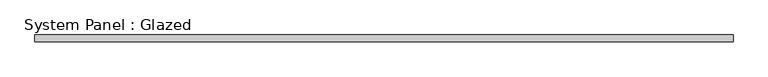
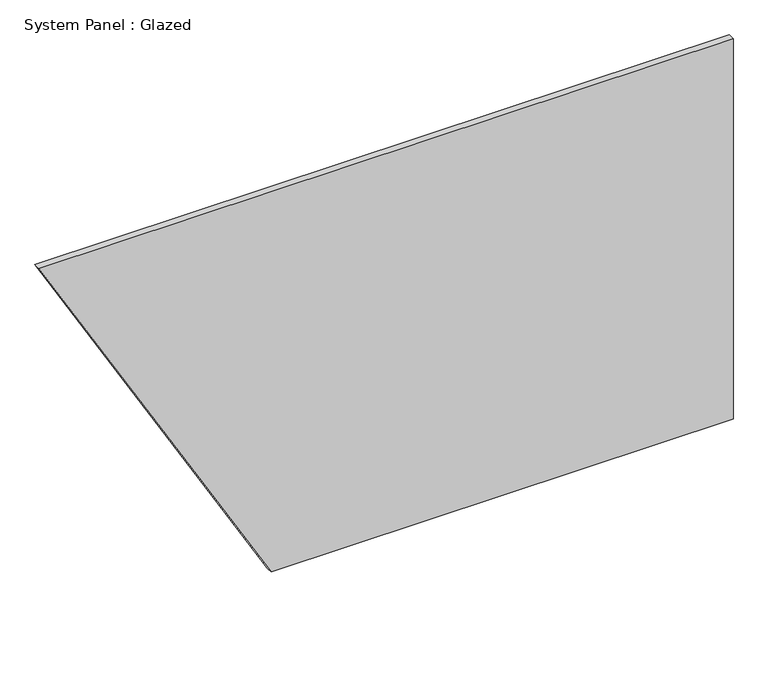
"""IFC4 building model written with IfcOpenShell, lengths in millimetres: plate geometry, System Panel : Glazed."""

import ifcopenshell
import ifcopenshell.guid

model = None  # the IFC model being written
_history = None  # IfcOwnerHistory: only IFC2X3 demands one
_inside = {}  # id of a spatial element -> (the spatial element, [elements in it])
_under = {}  # id of a project, library or spatial element -> (it, [spatial elements below it])
_declared = {}  # id of a project -> (the project, [libraries it declares])
_typed = {}  # id of a type object -> (the type object, [elements of that type])
_made_of = {}  # id of a material, layer set ... -> (it, [elements and type objects made of it])


def new_model(schema):
    """Start an empty IFC model of exactly this schema.

    Asked for "IFC4X3", IfcOpenShell would pick the latest addendum, in which some entities
    have other attributes; the version numbers below select the first issue.
    IFC2X3 requires an IfcOwnerHistory on every rooted entity: one is made here for all.
    """
    global model, _history
    if schema == "IFC4X3":
        model = ifcopenshell.file(schema_version=(4, 3, 0, 0))
    else:
        model = ifcopenshell.file(schema=schema)
    _inside.clear()
    _under.clear()
    _declared.clear()
    _typed.clear()
    _made_of.clear()
    _history = None
    if model.schema == "IFC2X3":
        org = make("IfcOrganization", Name="unknown")
        user = make(
            "IfcPersonAndOrganization",
            ThePerson=make("IfcPerson", FamilyName="unknown"),
            TheOrganization=org,
        )
        app = make(
            "IfcApplication",
            ApplicationDeveloper=org,
            Version="unknown",
            ApplicationFullName="unknown",
            ApplicationIdentifier="unknown",
        )
        _history = make(
            "IfcOwnerHistory",
            OwningUser=user,
            OwningApplication=app,
            ChangeAction="ADDED",
            CreationDate=0,
        )
    return model


def make(cls, **values):
    """One entity of the class cls with the attributes given. An attribute that is None is left unset."""
    return model.create_entity(
        cls, **{name: value for name, value in values.items() if value is not None}
    )


def rooted(cls, **values):
    """An entity with a GlobalId (a new one), such as an element, a storey or a relation."""
    return make(cls, GlobalId=ifcopenshell.guid.new(), OwnerHistory=_history, **values)


def si_unit(unit_type, name, prefix=None):
    """IfcSIUnit, for example si_unit("LENGTHUNIT", "METRE", prefix="MILLI")."""
    return make("IfcSIUnit", UnitType=unit_type, Prefix=prefix, Name=name)


def assignment(units):
    """IfcUnitAssignment: the units of a project."""
    return None if units is None else make("IfcUnitAssignment", Units=units)


def point(xyz):
    """IfcCartesianPoint."""
    return None if xyz is None else make("IfcCartesianPoint", Coordinates=xyz)


def direction(xyz):
    """IfcDirection."""
    return None if xyz is None else make("IfcDirection", DirectionRatios=xyz)


def frame(location, z_axis=None, x_axis=None):
    """IfcAxis2Placement3D, a coordinate frame: its origin and axes. An axis left out is left unset."""
    return make(
        "IfcAxis2Placement3D",
        Location=point(location),
        Axis=direction(z_axis),
        RefDirection=direction(x_axis),
    )


def origin():
    """The frame at (0, 0, 0) with its axes left unset."""
    return frame((0.0, 0.0, 0.0))


def place(relative_to, where):
    """IfcLocalPlacement: puts the frame where relative to a parent placement (None: the world)."""
    return make(
        "IfcLocalPlacement", PlacementRelTo=relative_to, RelativePlacement=where
    )


def context(
    kind, dimensions, precision=None, world=None, true_north=None, identifier=None
):
    """IfcGeometricRepresentationContext, for example the 3D "Model" context."""
    return make(
        "IfcGeometricRepresentationContext",
        ContextIdentifier=identifier,
        ContextType=kind,
        CoordinateSpaceDimension=dimensions,
        Precision=precision,
        WorldCoordinateSystem=world,
        TrueNorth=true_north,
    )


def project(units=None, contexts=None):
    """IfcProject with its units and contexts."""
    return rooted(
        "IfcProject",
        Name="project",
        RepresentationContexts=contexts,
        UnitsInContext=assignment(units),
    )


def spatial(cls, under=None, at=None, **own):
    """A site, building, storey or space (cls), placed at a placement, below another one or the project."""
    s = rooted(cls, ObjectPlacement=at, **own)
    if under is not None:
        _under.setdefault(under.id(), (under, []))[1].append(s)
    return s


def polyline(points):
    """IfcPolyline through the points."""
    return make("IfcPolyline", Points=[point(p) for p in points])


def outline(outer, holes=None, kind="AREA"):
    """IfcArbitraryClosedProfileDef: a profile drawn as a closed curve; with holes, ...WithVoids."""
    if holes is None:
        return make("IfcArbitraryClosedProfileDef", ProfileType=kind, OuterCurve=outer)
    return make(
        "IfcArbitraryProfileDefWithVoids",
        ProfileType=kind,
        OuterCurve=outer,
        InnerCurves=holes,
    )


def extrude(swept, where, along, depth):
    """IfcExtrudedAreaSolid: the profile swept, set in the frame where, extruded along a direction by depth."""
    return make(
        "IfcExtrudedAreaSolid",
        SweptArea=swept,
        Position=where,
        ExtrudedDirection=direction(along),
        Depth=depth,
    )


def shape(context_of_items, identifier, shape_type, items):
    """IfcShapeRepresentation: the items that make up one representation, for example the "Body"."""
    return make(
        "IfcShapeRepresentation",
        ContextOfItems=context_of_items,
        RepresentationIdentifier=identifier,
        RepresentationType=shape_type,
        Items=items,
    )


def source(mapping_origin, context_of_items, identifier, shape_type, items):
    """IfcRepresentationMap: a shape defined once, which mapped items show again and again."""
    return make(
        "IfcRepresentationMap",
        MappingOrigin=mapping_origin,
        MappedRepresentation=shape(context_of_items, identifier, shape_type, items),
    )


def transform(
    local_origin,
    x_axis=None,
    y_axis=None,
    z_axis=None,
    scale=None,
    scale2=None,
    scale3=None,
    uniform=True,
):
    """IfcCartesianTransformationOperator3D, or its non-uniform kind. x_axis, y_axis, z_axis: its Axis1, 2, 3."""
    if uniform:
        return make(
            "IfcCartesianTransformationOperator3D",
            Axis1=direction(x_axis),
            Axis2=direction(y_axis),
            LocalOrigin=point(local_origin),
            Scale=scale,
            Axis3=direction(z_axis),
        )
    return make(
        "IfcCartesianTransformationOperator3DnonUniform",
        Axis1=direction(x_axis),
        Axis2=direction(y_axis),
        LocalOrigin=point(local_origin),
        Scale=scale,
        Axis3=direction(z_axis),
        Scale2=scale2,
        Scale3=scale3,
    )


def mapped(mapping_source, mapping_target):
    """IfcMappedItem: shows the shape of a source again, moved by a transform."""
    return make(
        "IfcMappedItem", MappingSource=mapping_source, MappingTarget=mapping_target
    )


def made_of(thing, what):
    """Note that an element or type object is made of a material, layer set ...; save() writes the relation."""
    if what is not None:
        _made_of.setdefault(what.id(), (what, []))[1].append(thing)
    return thing


def element(
    cls,
    number,
    at=None,
    inside=None,
    cuts=None,
    type_object=None,
    material=None,
    context=None,
    identifier="Body",
    shape_type=None,
    held_by="IfcProductDefinitionShape",
    body=None,
    shapes=None,
    **own,
):
    """One element of the class cls, such as IfcWall. Its Tag is "e" and its number.

    at: its placement. inside: the storey or other place that contains it. cuts: it is an
    opening in that element (IfcRelVoidsElement). A single representation is given by context,
    identifier, shape_type and body (its items); several are given by shapes. held_by: the class
    of the entity that holds the representations. save() writes the other relations.
    """
    e = rooted(cls, Tag="e%d" % number, ObjectPlacement=at, **own)
    if body is not None:
        shapes = [shape(context, identifier, shape_type, body)]
    if shapes is not None:
        e.Representation = make(held_by, Representations=shapes)
    if inside is not None:
        _inside.setdefault(inside.id(), (inside, []))[1].append(e)
    if cuts is not None:
        rooted(
            "IfcRelVoidsElement", RelatingBuildingElement=cuts, RelatedOpeningElement=e
        )
    if type_object is not None:
        _typed.setdefault(type_object.id(), (type_object, []))[1].append(e)
    return made_of(e, material)


def aggregate(whole, parts):
    """IfcRelAggregates: a whole, such as a stair, and the parts it consists of."""
    return rooted("IfcRelAggregates", RelatingObject=whole, RelatedObjects=parts)


def save(model, path):
    """Write the relations noted so far, then the file.

    IfcRelAggregates (storeys below a building ...), IfcRelContainedInSpatialStructure (elements
    in a storey), IfcRelDefinesByType, IfcRelAssociatesMaterial and IfcRelDeclares: one each for
    every whole, place, type object, material and project.
    """
    for whole, parts in _under.values():
        aggregate(whole, parts)
    for where, things in _inside.values():
        rooted(
            "IfcRelContainedInSpatialStructure",
            RelatedElements=things,
            RelatingStructure=where,
        )
    for kind, things in _typed.values():
        rooted("IfcRelDefinesByType", RelatedObjects=things, RelatingType=kind)
    for what, things in _made_of.values():
        rooted("IfcRelAssociatesMaterial", RelatedObjects=things, RelatingMaterial=what)
    for by, libraries in _declared.values():
        rooted("IfcRelDeclares", RelatingContext=by, RelatedDefinitions=libraries)
    model.write(path)


def system_panel_glazed_0a37f690(model_context):
    return source(origin(), model_context, "Body", "SweptSolid", [
        extrude(outline(polyline([(0.0, -434.8843426), (0.0, 1314.7661528), (1524.0, 1314.7661528), (1524.0, -1314.7661528), (0.0, -434.8843426)])), frame((0.0, 19.05, 0.0), z_axis=(0.0, 1.0, 0.0), x_axis=(0.0, 0.0, 1.0)), (0.0, 0.0, 1.0), 25.4),
    ])


if __name__ == "__main__":
    model = new_model("IFC4")
    model_context = context("Model", 3, world=origin())
    ifc_project = project(units=[si_unit("LENGTHUNIT", "METRE", prefix="MILLI")], contexts=[model_context])
    site = spatial("IfcSite", under=ifc_project)
    building = spatial("IfcBuilding", under=site)
    placement = place(None, origin())
    system_panel_glazed_shape = system_panel_glazed_0a37f690(model_context)
    element("IfcPlate", 1, ObjectType="System Panel : Glazed", at=placement, inside=building, context=model_context, shape_type="MappedRepresentation", body=[
        mapped(system_panel_glazed_shape, transform((0.0, 0.0, 0.0), x_axis=(1.0, 0.0, 0.0), y_axis=(0.0, 1.0, 0.0), z_axis=(0.0, 0.0, 1.0))),
    ])
    save(model, "model.ifc")
